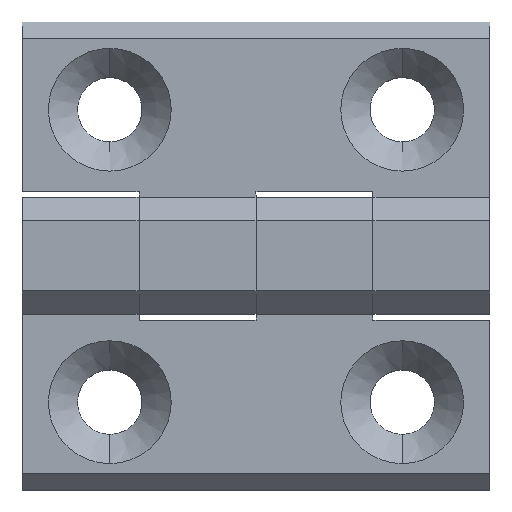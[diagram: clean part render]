
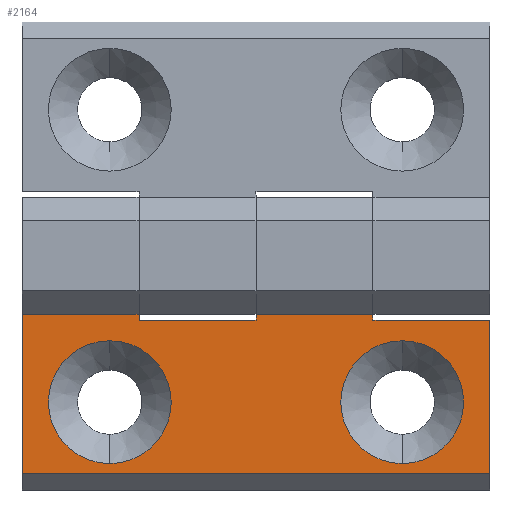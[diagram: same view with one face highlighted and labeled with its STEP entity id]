
A CAD part, top view. The second image highlights one B-rep face of the part: STEP entity #2164.
In plain terms, the highlighted planar face has unit normal (0, 0, 1).
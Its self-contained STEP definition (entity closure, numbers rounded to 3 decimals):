
#48 = AXIS2_PLACEMENT_3D ( 'NONE', #1990, #1280, #2391 ) ;
#49 = EDGE_CURVE ( 'NONE', #1092, #1837, #2353, .T. ) ;
#69 = CARTESIAN_POINT ( 'NONE',  ( 22.5, 7.5, 5. ) ) ;
#118 = CARTESIAN_POINT ( 'NONE',  ( 0., -5.25, 5. ) ) ;
#128 = FACE_OUTER_BOUND ( 'NONE', #2073, .T. ) ;
#155 = VECTOR ( 'NONE', #2845, 1000. ) ;
#202 = ORIENTED_EDGE ( 'NONE', *, *, #2265, .F. ) ;
#213 = LINE ( 'NONE', #2310, #1882 ) ;
#231 = CARTESIAN_POINT ( 'NONE',  ( 12.5, 7., 5. ) ) ;
#237 = CARTESIAN_POINT ( 'NONE',  ( -7.5, 7., 5. ) ) ;
#241 = EDGE_CURVE ( 'NONE', #1753, #1535, #2419, .T. ) ;
#280 = EDGE_CURVE ( 'NONE', #2674, #2909, #2943, .T. ) ;
#293 = DIRECTION ( 'NONE',  ( 1., 0., 0. ) ) ;
#398 = CIRCLE ( 'NONE', #2090, 5.25 ) ;
#425 = ORIENTED_EDGE ( 'NONE', *, *, #2148, .F. ) ;
#443 = VERTEX_POINT ( 'NONE', #2052 ) ;
#446 = DIRECTION ( 'NONE',  ( 0., -1., 0. ) ) ;
#456 = LINE ( 'NONE', #1373, #1399 ) ;
#516 = CARTESIAN_POINT ( 'NONE',  ( 25., 0., 5. ) ) ;
#581 = AXIS2_PLACEMENT_3D ( 'NONE', #516, #1180, #2783 ) ;
#616 = LINE ( 'NONE', #2289, #1550 ) ;
#670 = VERTEX_POINT ( 'NONE', #1705 ) ;
#673 = LINE ( 'NONE', #2944, #2721 ) ;
#697 = DIRECTION ( 'NONE',  ( 1., 0., 0. ) ) ;
#704 = CARTESIAN_POINT ( 'NONE',  ( 22.5, 7., 5. ) ) ;
#754 = VERTEX_POINT ( 'NONE', #2508 ) ;
#765 = CARTESIAN_POINT ( 'NONE',  ( 0., 0., 5. ) ) ;
#825 = FACE_BOUND ( 'NONE', #2218, .T. ) ;
#884 = ORIENTED_EDGE ( 'NONE', *, *, #2369, .F. ) ;
#896 = CARTESIAN_POINT ( 'NONE',  ( 2.5, 7.5, 5. ) ) ;
#928 = LINE ( 'NONE', #237, #155 ) ;
#985 = EDGE_CURVE ( 'NONE', #670, #754, #1878, .T. ) ;
#1002 = EDGE_CURVE ( 'NONE', #443, #2405, #456, .T. ) ;
#1004 = VERTEX_POINT ( 'NONE', #231 ) ;
#1016 = CIRCLE ( 'NONE', #48, 5.25 ) ;
#1028 = ORIENTED_EDGE ( 'NONE', *, *, #241, .F. ) ;
#1061 = DIRECTION ( 'NONE',  ( 0., 0., 1. ) ) ;
#1092 = VERTEX_POINT ( 'NONE', #69 ) ;
#1149 = CARTESIAN_POINT ( 'NONE',  ( -7.5, 7., 5. ) ) ;
#1180 = DIRECTION ( 'NONE',  ( 0., 0., 1. ) ) ;
#1248 = ORIENTED_EDGE ( 'NONE', *, *, #1571, .F. ) ;
#1280 = DIRECTION ( 'NONE',  ( 0., 0., 1. ) ) ;
#1333 = DIRECTION ( 'NONE',  ( 0., 0., 1. ) ) ;
#1334 = CARTESIAN_POINT ( 'NONE',  ( 12.5, 7.5, 5. ) ) ;
#1338 = ORIENTED_EDGE ( 'NONE', *, *, #985, .F. ) ;
#1373 = CARTESIAN_POINT ( 'NONE',  ( 32.5, 7., 5. ) ) ;
#1399 = VECTOR ( 'NONE', #2313, 1000. ) ;
#1402 = AXIS2_PLACEMENT_3D ( 'NONE', #2158, #1061, #2415 ) ;
#1516 = CARTESIAN_POINT ( 'NONE',  ( 0., 0., 5. ) ) ;
#1534 = VECTOR ( 'NONE', #2402, 1000. ) ;
#1535 = VERTEX_POINT ( 'NONE', #1851 ) ;
#1550 = VECTOR ( 'NONE', #1770, 1000. ) ;
#1571 = EDGE_CURVE ( 'NONE', #2674, #2374, #213, .T. ) ;
#1642 = CARTESIAN_POINT ( 'NONE',  ( 32.5, -6.1, 5. ) ) ;
#1661 = ORIENTED_EDGE ( 'NONE', *, *, #280, .T. ) ;
#1688 = VECTOR ( 'NONE', #3013, 1000. ) ;
#1705 = CARTESIAN_POINT ( 'NONE',  ( 25., 5.25, 5. ) ) ;
#1739 = DIRECTION ( 'NONE',  ( 0., -1., 0. ) ) ;
#1753 = VERTEX_POINT ( 'NONE', #118 ) ;
#1765 = LINE ( 'NONE', #2949, #2973 ) ;
#1770 = DIRECTION ( 'NONE',  ( 0., -1., 0. ) ) ;
#1782 = EDGE_LOOP ( 'NONE', ( #425, #1338 ) ) ;
#1783 = DIRECTION ( 'NONE',  ( 0., 0., 1. ) ) ;
#1796 = ORIENTED_EDGE ( 'NONE', *, *, #2545, .F. ) ;
#1827 = AXIS2_PLACEMENT_3D ( 'NONE', #1516, #1333, #2438 ) ;
#1837 = VERTEX_POINT ( 'NONE', #1334 ) ;
#1851 = CARTESIAN_POINT ( 'NONE',  ( 0., 5.25, 5. ) ) ;
#1857 = LINE ( 'NONE', #1149, #2678 ) ;
#1861 = ORIENTED_EDGE ( 'NONE', *, *, #1002, .F. ) ;
#1872 = EDGE_CURVE ( 'NONE', #2909, #2405, #673, .T. ) ;
#1878 = CIRCLE ( 'NONE', #581, 5.25 ) ;
#1882 = VECTOR ( 'NONE', #697, 1000. ) ;
#1913 = VERTEX_POINT ( 'NONE', #2263 ) ;
#1979 = EDGE_CURVE ( 'NONE', #1913, #1004, #928, .T. ) ;
#1990 = CARTESIAN_POINT ( 'NONE',  ( 25., 0., 5. ) ) ;
#2022 = CARTESIAN_POINT ( 'NONE',  ( -7.5, 7., 5. ) ) ;
#2052 = CARTESIAN_POINT ( 'NONE',  ( 32.5, 7., 5. ) ) ;
#2061 = CARTESIAN_POINT ( 'NONE',  ( -7.5, -6.1, 5. ) ) ;
#2073 = EDGE_LOOP ( 'NONE', ( #1661, #2873, #1861, #2695, #884, #2825, #2131, #2152, #1796, #1248 ) ) ;
#2077 = CARTESIAN_POINT ( 'NONE',  ( 2.5, 7.5, 5. ) ) ;
#2090 = AXIS2_PLACEMENT_3D ( 'NONE', #765, #1783, #446 ) ;
#2131 = ORIENTED_EDGE ( 'NONE', *, *, #2745, .T. ) ;
#2148 = EDGE_CURVE ( 'NONE', #754, #670, #1016, .T. ) ;
#2152 = ORIENTED_EDGE ( 'NONE', *, *, #1979, .F. ) ;
#2158 = CARTESIAN_POINT ( 'NONE',  ( -7.5, 7., 5. ) ) ;
#2164 = ADVANCED_FACE ( 'NONE', ( #825, #2880, #128 ), #2639, .T. ) ;
#2218 = EDGE_LOOP ( 'NONE', ( #1028, #202 ) ) ;
#2256 = DIRECTION ( 'NONE',  ( 0., -1., 0. ) ) ;
#2263 = CARTESIAN_POINT ( 'NONE',  ( 2.5, 7., 5. ) ) ;
#2265 = EDGE_CURVE ( 'NONE', #1535, #1753, #398, .T. ) ;
#2289 = CARTESIAN_POINT ( 'NONE',  ( 22.5, 7.5, 5. ) ) ;
#2310 = CARTESIAN_POINT ( 'NONE',  ( -7.5, 7.5, 5. ) ) ;
#2313 = DIRECTION ( 'NONE',  ( 0., -1., 0. ) ) ;
#2353 = LINE ( 'NONE', #2990, #1534 ) ;
#2369 = EDGE_CURVE ( 'NONE', #1092, #2536, #616, .T. ) ;
#2374 = VERTEX_POINT ( 'NONE', #896 ) ;
#2386 = CARTESIAN_POINT ( 'NONE',  ( -7.5, 7.5, 5. ) ) ;
#2391 = DIRECTION ( 'NONE',  ( 0., -1., 0. ) ) ;
#2402 = DIRECTION ( 'NONE',  ( -1., 0., 0. ) ) ;
#2403 = EDGE_CURVE ( 'NONE', #2536, #443, #1857, .T. ) ;
#2405 = VERTEX_POINT ( 'NONE', #1642 ) ;
#2415 = DIRECTION ( 'NONE',  ( 1., 0., 0. ) ) ;
#2419 = CIRCLE ( 'NONE', #1827, 5.25 ) ;
#2438 = DIRECTION ( 'NONE',  ( 0., -1., 0. ) ) ;
#2469 = DIRECTION ( 'NONE',  ( 1., 0., 0. ) ) ;
#2508 = CARTESIAN_POINT ( 'NONE',  ( 25., -5.25, 5. ) ) ;
#2536 = VERTEX_POINT ( 'NONE', #704 ) ;
#2545 = EDGE_CURVE ( 'NONE', #2374, #1913, #2557, .T. ) ;
#2557 = LINE ( 'NONE', #2077, #1688 ) ;
#2639 = PLANE ( 'NONE',  #1402 ) ;
#2674 = VERTEX_POINT ( 'NONE', #2386 ) ;
#2678 = VECTOR ( 'NONE', #293, 1000. ) ;
#2695 = ORIENTED_EDGE ( 'NONE', *, *, #2403, .F. ) ;
#2721 = VECTOR ( 'NONE', #2469, 1000. ) ;
#2745 = EDGE_CURVE ( 'NONE', #1837, #1004, #1765, .T. ) ;
#2763 = VECTOR ( 'NONE', #1739, 1000. ) ;
#2783 = DIRECTION ( 'NONE',  ( 0., -1., 0. ) ) ;
#2825 = ORIENTED_EDGE ( 'NONE', *, *, #49, .T. ) ;
#2845 = DIRECTION ( 'NONE',  ( 1., 0., 0. ) ) ;
#2873 = ORIENTED_EDGE ( 'NONE', *, *, #1872, .T. ) ;
#2880 = FACE_BOUND ( 'NONE', #1782, .T. ) ;
#2909 = VERTEX_POINT ( 'NONE', #2061 ) ;
#2943 = LINE ( 'NONE', #2022, #2763 ) ;
#2944 = CARTESIAN_POINT ( 'NONE',  ( -7.5, -6.1, 5. ) ) ;
#2949 = CARTESIAN_POINT ( 'NONE',  ( 12.5, 7.5, 5. ) ) ;
#2973 = VECTOR ( 'NONE', #2256, 1000. ) ;
#2990 = CARTESIAN_POINT ( 'NONE',  ( 22.5, 7.5, 5. ) ) ;
#3013 = DIRECTION ( 'NONE',  ( 0., -1., 0. ) ) ;
